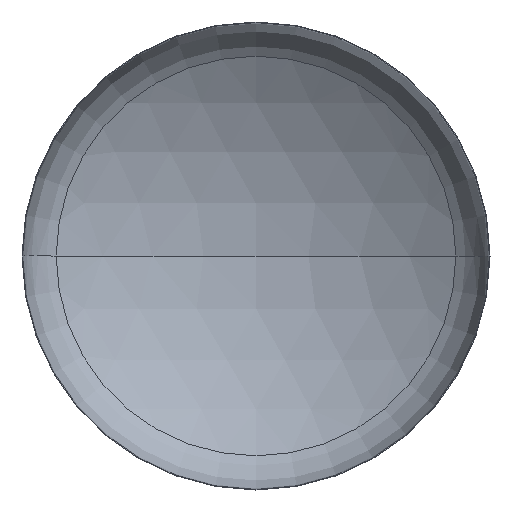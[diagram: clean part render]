
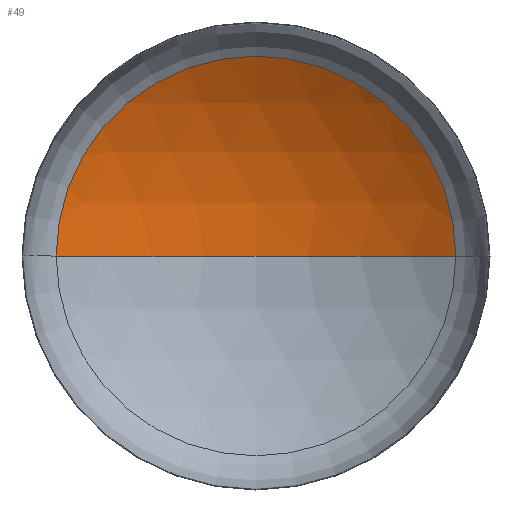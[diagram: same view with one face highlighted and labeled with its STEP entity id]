
A CAD part, front view. The second image highlights one B-rep face of the part: STEP entity #49.
In plain terms, the highlighted spherical face has radius 4000 mm.
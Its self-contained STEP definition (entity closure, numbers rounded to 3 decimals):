
#11 = CARTESIAN_POINT ( 'NONE',  ( 0., 671.146, 0. ) ) ;
#13 = CARTESIAN_POINT ( 'NONE',  ( 0., -2711.433, 0. ) ) ;
#27 = VERTEX_POINT ( 'NONE', #264 ) ;
#34 = FACE_OUTER_BOUND ( 'NONE', #308, .T. ) ;
#49 = ADVANCED_FACE ( 'NONE', ( #34 ), #350, .F. ) ;
#60 = VERTEX_POINT ( 'NONE', #215 ) ;
#72 = VERTEX_POINT ( 'NONE', #194 ) ;
#91 = AXIS2_PLACEMENT_3D ( 'NONE', #161, #176, #172 ) ;
#93 = AXIS2_PLACEMENT_3D ( 'NONE', #13, #183, #370 ) ;
#98 = AXIS2_PLACEMENT_3D ( 'NONE', #11, #313, #238 ) ;
#140 = AXIS2_PLACEMENT_3D ( 'NONE', #339, #275, #218 ) ;
#161 = CARTESIAN_POINT ( 'NONE',  ( 0., -2711.433, 0. ) ) ;
#172 = DIRECTION ( 'NONE',  ( 1., 0., 0. ) ) ;
#176 = DIRECTION ( 'NONE',  ( 0., 0., 1. ) ) ;
#177 = CIRCLE ( 'NONE', #93, 4000. ) ;
#180 = EDGE_CURVE ( 'NONE', #60, #27, #255, .T. ) ;
#182 = EDGE_CURVE ( 'NONE', #72, #60, #177, .T. ) ;
#183 = DIRECTION ( 'NONE',  ( 0., 0., -1. ) ) ;
#190 = EDGE_CURVE ( 'NONE', #72, #27, #316, .T. ) ;
#194 = CARTESIAN_POINT ( 'NONE',  ( 0., 1288.567, 0. ) ) ;
#215 = CARTESIAN_POINT ( 'NONE',  ( 2134.985, 671.146, 0. ) ) ;
#218 = DIRECTION ( 'NONE',  ( -1., 0., 0. ) ) ;
#238 = DIRECTION ( 'NONE',  ( 1., 0., 0. ) ) ;
#255 = CIRCLE ( 'NONE', #98, 2134.985 ) ;
#264 = CARTESIAN_POINT ( 'NONE',  ( -2134.985, 671.146, 0. ) ) ;
#275 = DIRECTION ( 'NONE',  ( 0., 0., -1. ) ) ;
#308 = EDGE_LOOP ( 'NONE', ( #331, #387, #359 ) ) ;
#313 = DIRECTION ( 'NONE',  ( 0., -1., 0. ) ) ;
#316 = CIRCLE ( 'NONE', #91, 4000. ) ;
#331 = ORIENTED_EDGE ( 'NONE', *, *, #190, .F. ) ;
#339 = CARTESIAN_POINT ( 'NONE',  ( 0., -2711.433, 0. ) ) ;
#350 = SPHERICAL_SURFACE ( 'NONE', #140, 4000. ) ;
#359 = ORIENTED_EDGE ( 'NONE', *, *, #180, .T. ) ;
#370 = DIRECTION ( 'NONE',  ( -1., 0., 0. ) ) ;
#387 = ORIENTED_EDGE ( 'NONE', *, *, #182, .T. ) ;
